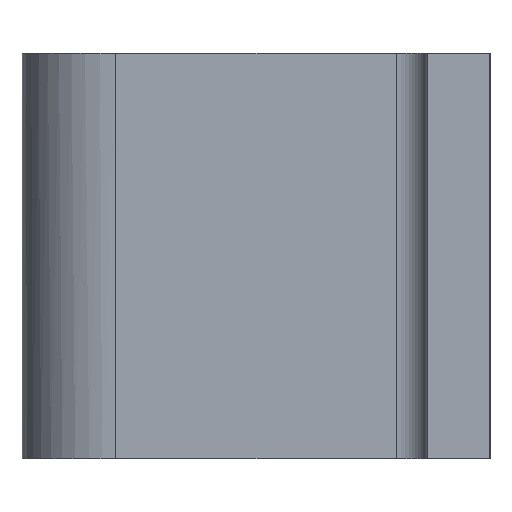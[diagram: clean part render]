
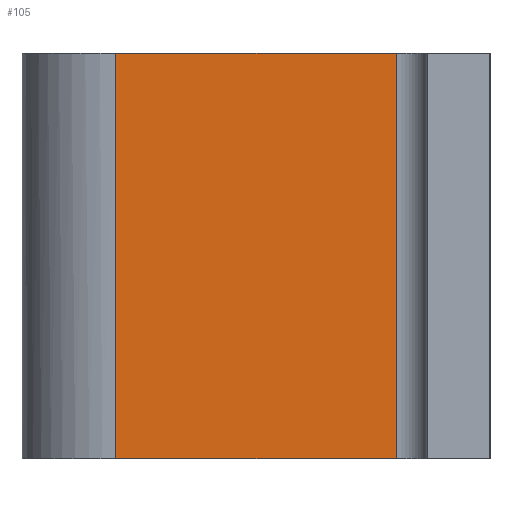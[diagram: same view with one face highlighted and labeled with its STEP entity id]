
A CAD part, left-side view. The second image highlights one B-rep face of the part: STEP entity #105.
In plain terms, the highlighted planar face has unit normal (-1, 0, 0).
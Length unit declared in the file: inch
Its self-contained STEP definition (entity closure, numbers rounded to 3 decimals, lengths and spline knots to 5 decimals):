
#105=ADVANCED_FACE('',(#217),#218,.T.);
#217=FACE_OUTER_BOUND('',#430,.T.);
#218=PLANE('',#431);
#430=EDGE_LOOP('',(#678,#679,#680,#681));
#431=AXIS2_PLACEMENT_3D('',#682,#683,#684);
#678=ORIENTED_EDGE('',*,*,#865,.T.);
#679=ORIENTED_EDGE('',*,*,#834,.F.);
#680=ORIENTED_EDGE('',*,*,#883,.T.);
#681=ORIENTED_EDGE('',*,*,#884,.T.);
#682=CARTESIAN_POINT('',(0.8117,0.4683,0.0));
#683=DIRECTION('',(-1.0,0.0,0.0));
#684=DIRECTION('',(0.0,-1.0,0.0));
#834=EDGE_CURVE('',#1002,#997,#1004,.T.);
#865=EDGE_CURVE('',#1048,#997,#1049,.T.);
#883=EDGE_CURVE('',#1002,#1073,#1074,.T.);
#884=EDGE_CURVE('',#1073,#1048,#1075,.T.);
#997=VERTEX_POINT('',#1267);
#1002=VERTEX_POINT('',#1276);
#1004=LINE('',#1281,#1282);
#1048=VERTEX_POINT('',#1370);
#1049=LINE('',#1371,#1372);
#1073=VERTEX_POINT('',#1416);
#1074=LINE('',#1417,#1418);
#1075=LINE('',#1419,#1420);
#1267=CARTESIAN_POINT('',(0.8117,0.74927,0.8125));
#1276=CARTESIAN_POINT('',(0.8117,0.74927,0.0));
#1281=CARTESIAN_POINT('',(0.8117,0.74927,0.0));
#1282=VECTOR('',#1501,1.0);
#1370=CARTESIAN_POINT('',(0.8117,0.18732,0.8125));
#1371=CARTESIAN_POINT('',(0.8117,0.74927,0.8125));
#1372=VECTOR('',#1513,1.0);
#1416=CARTESIAN_POINT('',(0.8117,0.18732,0.0));
#1417=CARTESIAN_POINT('',(0.8117,0.74927,0.0));
#1418=VECTOR('',#1522,1.0);
#1419=CARTESIAN_POINT('',(0.8117,0.18732,0.0));
#1420=VECTOR('',#1523,1.0);
#1501=DIRECTION('',(0.0,0.0,1.0));
#1513=DIRECTION('',(0.0,1.0,0.0));
#1522=DIRECTION('',(0.0,-1.0,0.0));
#1523=DIRECTION('',(0.0,0.0,1.0));
